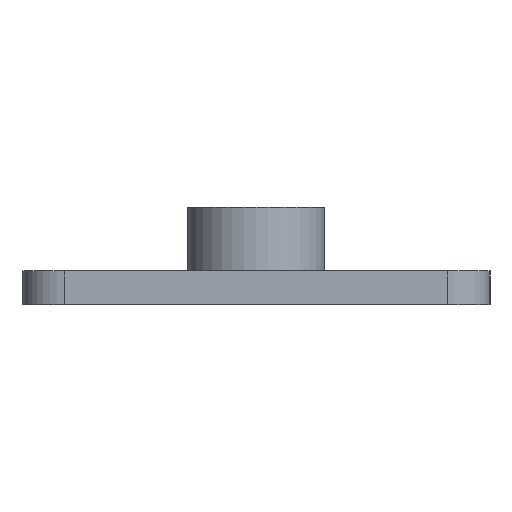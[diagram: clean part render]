
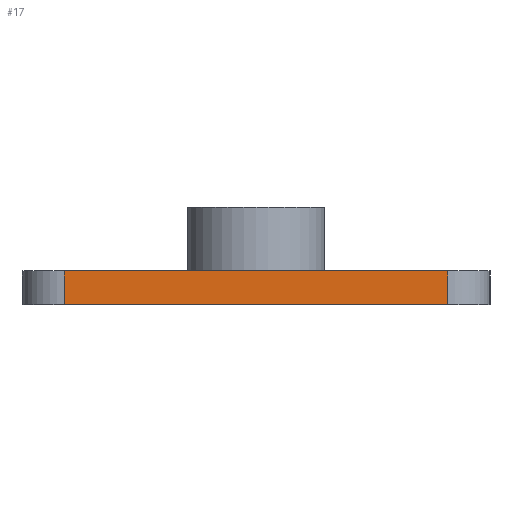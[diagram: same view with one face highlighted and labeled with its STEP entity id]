
A CAD part, left-side view. The second image highlights one B-rep face of the part: STEP entity #17.
In plain terms, the highlighted planar face has unit normal (-1, 0, 0).
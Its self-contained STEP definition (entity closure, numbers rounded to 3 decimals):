
#17 = ADVANCED_FACE('',(#18),#32,.F.);
#18 = FACE_BOUND('',#19,.F.);
#19 = EDGE_LOOP('',(#20,#55,#83,#111));
#20 = ORIENTED_EDGE('',*,*,#21,.F.);
#21 = EDGE_CURVE('',#22,#24,#26,.T.);
#22 = VERTEX_POINT('',#23);
#23 = CARTESIAN_POINT('',(-69.58,-18.05,3.2));
#24 = VERTEX_POINT('',#25);
#25 = CARTESIAN_POINT('',(-69.58,18.05,3.2));
#26 = SURFACE_CURVE('',#27,(#31,#43),.PCURVE_S1.);
#27 = LINE('',#28,#29);
#28 = CARTESIAN_POINT('',(-69.58,-22.05,3.2));
#29 = VECTOR('',#30,1.);
#30 = DIRECTION('',(0.,1.,0.));
#31 = PCURVE('',#32,#37);
#32 = PLANE('',#33);
#33 = AXIS2_PLACEMENT_3D('',#34,#35,#36);
#34 = CARTESIAN_POINT('',(-69.58,-22.05,0.));
#35 = DIRECTION('',(1.,0.,0.));
#36 = DIRECTION('',(0.,0.,1.));
#37 = DEFINITIONAL_REPRESENTATION('',(#38),#42);
#38 = LINE('',#39,#40);
#39 = CARTESIAN_POINT('',(3.2,0.));
#40 = VECTOR('',#41,1.);
#41 = DIRECTION('',(0.,-1.));
#42 = ( GEOMETRIC_REPRESENTATION_CONTEXT(2) 
PARAMETRIC_REPRESENTATION_CONTEXT() REPRESENTATION_CONTEXT('2D SPACE',''
  ) );
#43 = PCURVE('',#44,#49);
#44 = PLANE('',#45);
#45 = AXIS2_PLACEMENT_3D('',#46,#47,#48);
#46 = CARTESIAN_POINT('',(-69.58,-22.05,3.2));
#47 = DIRECTION('',(0.,0.,1.));
#48 = DIRECTION('',(1.,0.,0.));
#49 = DEFINITIONAL_REPRESENTATION('',(#50),#54);
#50 = LINE('',#51,#52);
#51 = CARTESIAN_POINT('',(0.,0.));
#52 = VECTOR('',#53,1.);
#53 = DIRECTION('',(0.,1.));
#54 = ( GEOMETRIC_REPRESENTATION_CONTEXT(2) 
PARAMETRIC_REPRESENTATION_CONTEXT() REPRESENTATION_CONTEXT('2D SPACE',''
  ) );
#55 = ORIENTED_EDGE('',*,*,#56,.F.);
#56 = EDGE_CURVE('',#57,#22,#59,.T.);
#57 = VERTEX_POINT('',#58);
#58 = CARTESIAN_POINT('',(-69.58,-18.05,0.));
#59 = SURFACE_CURVE('',#60,(#64,#71),.PCURVE_S1.);
#60 = LINE('',#61,#62);
#61 = CARTESIAN_POINT('',(-69.58,-18.05,0.));
#62 = VECTOR('',#63,1.);
#63 = DIRECTION('',(0.,0.,1.));
#64 = PCURVE('',#32,#65);
#65 = DEFINITIONAL_REPRESENTATION('',(#66),#70);
#66 = LINE('',#67,#68);
#67 = CARTESIAN_POINT('',(0.,-4.));
#68 = VECTOR('',#69,1.);
#69 = DIRECTION('',(1.,0.));
#70 = ( GEOMETRIC_REPRESENTATION_CONTEXT(2) 
PARAMETRIC_REPRESENTATION_CONTEXT() REPRESENTATION_CONTEXT('2D SPACE',''
  ) );
#71 = PCURVE('',#72,#77);
#72 = CYLINDRICAL_SURFACE('',#73,4.);
#73 = AXIS2_PLACEMENT_3D('',#74,#75,#76);
#74 = CARTESIAN_POINT('',(-65.58,-18.05,0.));
#75 = DIRECTION('',(0.,0.,1.));
#76 = DIRECTION('',(-1.,-0.,0.));
#77 = DEFINITIONAL_REPRESENTATION('',(#78),#82);
#78 = LINE('',#79,#80);
#79 = CARTESIAN_POINT('',(0.,0.));
#80 = VECTOR('',#81,1.);
#81 = DIRECTION('',(0.,1.));
#82 = ( GEOMETRIC_REPRESENTATION_CONTEXT(2) 
PARAMETRIC_REPRESENTATION_CONTEXT() REPRESENTATION_CONTEXT('2D SPACE',''
  ) );
#83 = ORIENTED_EDGE('',*,*,#84,.T.);
#84 = EDGE_CURVE('',#57,#85,#87,.T.);
#85 = VERTEX_POINT('',#86);
#86 = CARTESIAN_POINT('',(-69.58,18.05,0.));
#87 = SURFACE_CURVE('',#88,(#92,#99),.PCURVE_S1.);
#88 = LINE('',#89,#90);
#89 = CARTESIAN_POINT('',(-69.58,-22.05,0.));
#90 = VECTOR('',#91,1.);
#91 = DIRECTION('',(0.,1.,0.));
#92 = PCURVE('',#32,#93);
#93 = DEFINITIONAL_REPRESENTATION('',(#94),#98);
#94 = LINE('',#95,#96);
#95 = CARTESIAN_POINT('',(0.,0.));
#96 = VECTOR('',#97,1.);
#97 = DIRECTION('',(0.,-1.));
#98 = ( GEOMETRIC_REPRESENTATION_CONTEXT(2) 
PARAMETRIC_REPRESENTATION_CONTEXT() REPRESENTATION_CONTEXT('2D SPACE',''
  ) );
#99 = PCURVE('',#100,#105);
#100 = PLANE('',#101);
#101 = AXIS2_PLACEMENT_3D('',#102,#103,#104);
#102 = CARTESIAN_POINT('',(-69.58,-22.05,0.));
#103 = DIRECTION('',(0.,0.,1.));
#104 = DIRECTION('',(1.,0.,0.));
#105 = DEFINITIONAL_REPRESENTATION('',(#106),#110);
#106 = LINE('',#107,#108);
#107 = CARTESIAN_POINT('',(0.,0.));
#108 = VECTOR('',#109,1.);
#109 = DIRECTION('',(0.,1.));
#110 = ( GEOMETRIC_REPRESENTATION_CONTEXT(2) 
PARAMETRIC_REPRESENTATION_CONTEXT() REPRESENTATION_CONTEXT('2D SPACE',''
  ) );
#111 = ORIENTED_EDGE('',*,*,#112,.T.);
#112 = EDGE_CURVE('',#85,#24,#113,.T.);
#113 = SURFACE_CURVE('',#114,(#118,#125),.PCURVE_S1.);
#114 = LINE('',#115,#116);
#115 = CARTESIAN_POINT('',(-69.58,18.05,0.));
#116 = VECTOR('',#117,1.);
#117 = DIRECTION('',(0.,0.,1.));
#118 = PCURVE('',#32,#119);
#119 = DEFINITIONAL_REPRESENTATION('',(#120),#124);
#120 = LINE('',#121,#122);
#121 = CARTESIAN_POINT('',(0.,-40.1));
#122 = VECTOR('',#123,1.);
#123 = DIRECTION('',(1.,0.));
#124 = ( GEOMETRIC_REPRESENTATION_CONTEXT(2) 
PARAMETRIC_REPRESENTATION_CONTEXT() REPRESENTATION_CONTEXT('2D SPACE',''
  ) );
#125 = PCURVE('',#126,#131);
#126 = CYLINDRICAL_SURFACE('',#127,4.);
#127 = AXIS2_PLACEMENT_3D('',#128,#129,#130);
#128 = CARTESIAN_POINT('',(-65.58,18.05,0.));
#129 = DIRECTION('',(0.,0.,1.));
#130 = DIRECTION('',(-1.,-0.,0.));
#131 = DEFINITIONAL_REPRESENTATION('',(#132),#136);
#132 = LINE('',#133,#134);
#133 = CARTESIAN_POINT('',(-0.,0.));
#134 = VECTOR('',#135,1.);
#135 = DIRECTION('',(-0.,1.));
#136 = ( GEOMETRIC_REPRESENTATION_CONTEXT(2) 
PARAMETRIC_REPRESENTATION_CONTEXT() REPRESENTATION_CONTEXT('2D SPACE',''
  ) );
